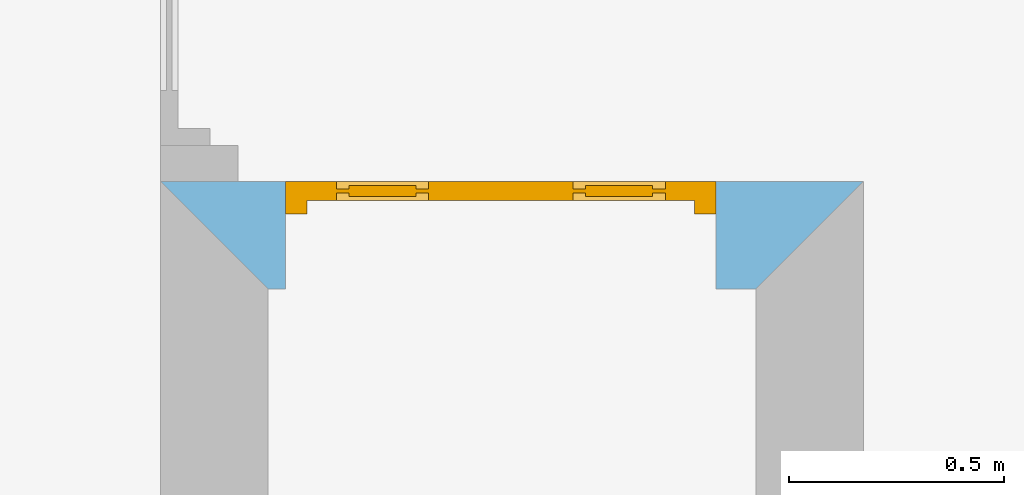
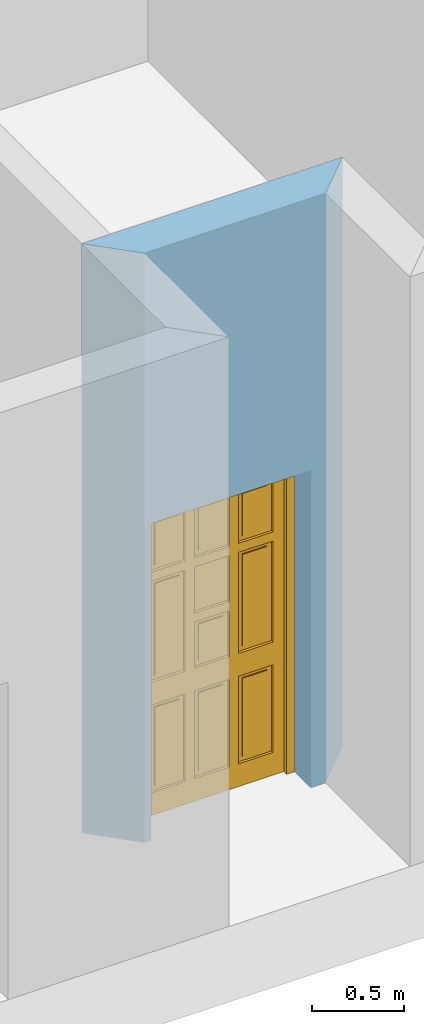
# One storey, part 4 of 5: 1 door, 1 opening, plus 1 element that does not belong to this part.
"""IFC2X3 building model written with IfcOpenShell, lengths in metres."""

from ifc_helpers import new_model, entity, si_unit, converted_unit, direction, frame, frame_2d, origin_with_axes, place, context, project, spatial, polyline, rectangle, outline, extrude, faceted_brep, material, layer, layer_set, layer_usage, type_object, element, fill, save


model = new_model("IFC2X3")

# Units and contexts
context_of_model = context(None, 3, precision=1e-05, world=origin_with_axes(), true_north=direction((6.123234e-17, 1.0)))
plan_context = context("Plan", 3, precision=1e-05, world=origin_with_axes(), true_north=direction((6.123234e-17, 1.0)))
model_context = context("Model", 3, precision=1e-05, world=origin_with_axes(), true_north=direction((6.123234e-17, 1.0)))
ifc_project = project(units=[si_unit("LENGTHUNIT", "METRE"), si_unit("AREAUNIT", "SQUARE_METRE"), si_unit("VOLUMEUNIT", "CUBIC_METRE"), converted_unit("PLANEANGLEUNIT", "DEGREE", entity("IfcPlaneAngleMeasure", 0.017453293), si_unit("PLANEANGLEUNIT", "RADIAN"), dimensions=[0, 0, 0, 0, 0, 0, 0]), si_unit("SOLIDANGLEUNIT", "STERADIAN"), si_unit("MASSUNIT", "GRAM"), si_unit("TIMEUNIT", "SECOND"), si_unit("THERMODYNAMICTEMPERATUREUNIT", "DEGREE_CELSIUS"), si_unit("LUMINOUSINTENSITYUNIT", "LUMEN")], contexts=[context_of_model, plan_context, model_context])

# Site, building, storey
site_placement = place(None, origin_with_axes())
site = spatial("IfcSite", under=ifc_project, at=site_placement, Name="Por defecto Sitio", CompositionType="ELEMENT")
building_placement = place(site_placement, origin_with_axes())
building = spatial("IfcBuilding", under=site, at=building_placement, Name="Por defecto Edificio", CompositionType="ELEMENT")
storey_placement = place(building_placement, origin_with_axes())
storey = spatial("IfcBuildingStorey", under=building, at=storey_placement, Name="Planta Baja", CompositionType="ELEMENT", Elevation=0.0)

# Wall, opening, door
ifc_material = material(Name="Ladrillo común")
ifc_layer = layer(ifc_material, 0.25, ventilated="UNKNOWN")
ifc_layer_set = layer_set([ifc_layer], Name="Ladrillo común")
ifc_layer_usage = layer_usage(ifc_layer_set, "AXIS2", "POSITIVE", 0.0)
wall_type = type_object("IfcWallType", Name="Ladrillo común", PredefinedType="NOTDEFINED")
wall_placement = place(storey_placement, frame((5.3619878, 0.91290992, 0.0), z_axis=(0.0, 0.0, 1.0), x_axis=(1.0, 0.0, 0.0)))
wall = element("IfcWallStandardCase", 1, at=wall_placement, inside=storey, type_object=wall_type, material=ifc_layer_usage, Name="Muro-006", context=context_of_model, shape_type="SweptSolid", body=[
    extrude(outline(polyline([(0.0, 0.0), (1.1322176, 0.0), (1.3822176, 0.25), (-0.25, 0.25), (0.0, 0.0)])), origin_with_axes(), (0.0, 0.0, 1.0), 3.9),
])
opening_placement = place(wall_placement, frame((0.54, 0.0, 0.0), z_axis=(0.0, 0.0, 1.0), x_axis=(1.0, 0.0, 0.0)))
opening = element("IfcOpeningElement", 2, at=opening_placement, cuts=wall, ObjectType="Opening", context=model_context, shape_type="SweptSolid", body=[
    extrude(rectangle(XDim=1.0, YDim=2.1, at=frame_2d((0.0, 1.05), x_axis=(-1.0, 0.0))), frame((0.0, 0.0, 0.0), z_axis=(0.0, 1.0, 0.0), x_axis=(-1.0, 0.0, 0.0)), (0.0, 0.0, 1.0), 0.25),
])
door_style = type_object("IfcDoorStyle", Name="P1 Entrada 12", ConstructionType="NOTDEFINED", OperationType="SINGLE_SWING_LEFT", ParameterTakesPrecedence=False, Sizeable=False)
door_placement = place(opening_placement, frame((-0.5, 0.175, 0.0), z_axis=(0.0, 0.0, 1.0), x_axis=(1.0, 0.0, 0.0)))
door = element("IfcDoor", 3, at=door_placement, inside=storey, type_object=door_style, Name="P03", OverallHeight=2.1, OverallWidth=1.0, context=model_context, shape_type="Brep", body=[
    faceted_brep([(0.95, 0.031, -1.2613862e-17), (0.95, 0.0, -1.0715659e-17), (0.95, 0.0, 2.05), (0.95, 0.031, 2.05), (0.962, 0.031, -1.2613862e-17), (0.962, 0.075, -1.5308085e-17), (1.0, 0.075, -1.5308085e-17), (1.0, 0.0, -1.0715659e-17), (1.0, 0.0, 2.05), (0.962, 0.031, 2.05), (1.0, 0.075, 2.05), (0.962, 0.075, 2.05)], [[[0, 1, 2, 3]], [[4, 5, 6, 7, 1, 0]], [[7, 8, 2, 1]], [[9, 3, 2, 8, 10, 11]], [[9, 4, 0, 3]], [[11, 5, 4, 9]], [[11, 10, 6, 5]], [[8, 7, 6, 10]]]),
    faceted_brep([(0.038, 0.031, 2.05), (0.038, 0.075, 2.05), (0.0, 0.075, 2.05), (0.0, 0.0, 2.05), (0.05, 0.0, 2.05), (0.05, 0.031, 2.05), (0.038, 0.031, -1.2613862e-17), (0.038, 0.075, -1.5308085e-17), (0.0, 0.075, -1.5308085e-17), (0.0, 0.0, 0.0), (0.05, 0.0, -1.0715659e-17), (0.05, 0.031, -1.2613862e-17)], [[[0, 1, 2, 3, 4, 5]], [[0, 6, 7, 1]], [[7, 8, 2, 1]], [[9, 3, 2, 8]], [[10, 4, 3, 9]], [[5, 4, 10, 11]], [[5, 11, 6, 0]], [[6, 11, 10, 9, 8, 7]]]),
    faceted_brep([(0.962, 0.075, 2.062), (0.038, 0.075, 2.062), (0.038, 0.075, 2.05), (0.0, 0.075, 2.05), (0.0, 0.075, 2.1), (1.0, 0.075, 2.1), (1.0, 0.075, 2.05), (0.962, 0.075, 2.05), (0.962, 0.031, 2.062), (0.038, 0.031, 2.062), (0.038, 0.031, 2.05), (0.05, 0.031, 2.05), (0.05, 0.0, 2.05), (0.0, 0.0, 2.05), (0.0, 0.0, 2.1), (1.0, 0.0, 2.1), (1.0, 0.0, 2.05), (0.962, 0.031, 2.05), (0.95, 0.0, 2.05), (0.95, 0.031, 2.05)], [[[0, 1, 2, 3, 4, 5, 6, 7]], [[0, 8, 9, 1]], [[1, 9, 10, 2]], [[10, 11, 12, 13, 3, 2]], [[13, 14, 4, 3]], [[14, 15, 5, 4]], [[15, 16, 6, 5]], [[17, 7, 6, 16, 18, 19]], [[7, 17, 8, 0]], [[10, 9, 8, 17, 19, 11]], [[19, 18, 12, 11]], [[14, 13, 12, 18, 16, 15]]]),
    faceted_brep([(0.038, 0.075, 0.15), (0.118, 0.075, 0.15), (0.118, 0.031, 0.15), (0.038, 0.031, 0.15), (0.038, 0.075, 1.952), (0.118, 0.075, 1.952), (0.118, 0.075, 1.6085333), (0.118, 0.075, 1.5485333), (0.118, 0.075, 0.88), (0.118, 0.075, 0.73), (0.118, 0.031, 0.73), (0.118, 0.031, 0.88), (0.118, 0.031, 1.5485333), (0.118, 0.031, 1.6085333), (0.118, 0.031, 1.952), (0.038, 0.031, 1.952)], [[[0, 1, 2, 3]], [[0, 4, 5, 6, 7, 8, 9, 1]], [[1, 9, 10, 2]], [[3, 2, 10, 11, 12, 13, 14, 15]], [[4, 0, 3, 15]], [[5, 4, 15, 14]], [[6, 5, 14, 13]], [[7, 6, 13, 12]], [[8, 7, 12, 11]], [[9, 8, 11, 10]]]),
    faceted_brep([(0.962, 0.075, 0.15), (0.962, 0.075, 1.952), (0.962, 0.031, 1.952), (0.962, 0.031, 0.15), (0.882, 0.075, 0.15), (0.882, 0.075, 0.73), (0.882, 0.075, 0.88), (0.882, 0.075, 1.5485333), (0.882, 0.075, 1.6085333), (0.882, 0.075, 1.952), (0.882, 0.031, 1.952), (0.882, 0.031, 1.6085333), (0.882, 0.031, 1.5485333), (0.882, 0.031, 0.88), (0.882, 0.031, 0.73), (0.882, 0.031, 0.15)], [[[0, 1, 2, 3]], [[0, 4, 5, 6, 7, 8, 9, 1]], [[1, 9, 10, 2]], [[3, 2, 10, 11, 12, 13, 14, 15]], [[4, 0, 3, 15]], [[5, 4, 15, 14]], [[6, 5, 14, 13]], [[7, 6, 13, 12]], [[8, 7, 12, 11]], [[9, 8, 11, 10]]]),
    faceted_brep([(0.038, 0.075, -1.5308085e-17), (0.962, 0.075, -1.5308085e-17), (0.962, 0.031, -1.2613862e-17), (0.038, 0.031, -1.2613862e-17), (0.038, 0.075, 0.15), (0.118, 0.075, 0.15), (0.33266667, 0.075, 0.15), (0.39266667, 0.075, 0.15), (0.60733333, 0.075, 0.15), (0.66733333, 0.075, 0.15), (0.882, 0.075, 0.15), (0.962, 0.075, 0.15), (0.962, 0.031, 0.15), (0.882, 0.031, 0.15), (0.66733333, 0.031, 0.15), (0.60733333, 0.031, 0.15), (0.39266667, 0.031, 0.15), (0.33266667, 0.031, 0.15), (0.118, 0.031, 0.15), (0.038, 0.031, 0.15)], [[[0, 1, 2, 3]], [[0, 4, 5, 6, 7, 8, 9, 10, 11, 1]], [[1, 11, 12, 2]], [[3, 2, 12, 13, 14, 15, 16, 17, 18, 19]], [[4, 0, 3, 19]], [[5, 4, 19, 18]], [[6, 5, 18, 17]], [[7, 6, 17, 16]], [[8, 7, 16, 15]], [[9, 8, 15, 14]], [[10, 9, 14, 13]], [[11, 10, 13, 12]]]),
    faceted_brep([(0.038, 0.075, 2.062), (0.038, 0.075, 1.952), (0.038, 0.031, 1.952), (0.038, 0.031, 2.062), (0.962, 0.075, 2.062), (0.962, 0.075, 1.952), (0.882, 0.075, 1.952), (0.66733333, 0.075, 1.952), (0.60733333, 0.075, 1.952), (0.39266667, 0.075, 1.952), (0.33266667, 0.075, 1.952), (0.118, 0.075, 1.952), (0.118, 0.031, 1.952), (0.33266667, 0.031, 1.952), (0.39266667, 0.031, 1.952), (0.60733333, 0.031, 1.952), (0.66733333, 0.031, 1.952), (0.882, 0.031, 1.952), (0.962, 0.031, 1.952), (0.962, 0.031, 2.062)], [[[0, 1, 2, 3]], [[0, 4, 5, 6, 7, 8, 9, 10, 11, 1]], [[1, 11, 12, 2]], [[3, 2, 12, 13, 14, 15, 16, 17, 18, 19]], [[4, 0, 3, 19]], [[5, 4, 19, 18]], [[6, 5, 18, 17]], [[7, 6, 17, 16]], [[8, 7, 16, 15]], [[9, 8, 15, 14]], [[10, 9, 14, 13]], [[11, 10, 13, 12]]]),
    faceted_brep([(0.39266667, 0.075, 0.15), (0.39266667, 0.075, 0.73), (0.39266667, 0.031, 0.73), (0.39266667, 0.031, 0.15), (0.33266667, 0.075, 0.15), (0.33266667, 0.075, 0.73), (0.33266667, 0.031, 0.73), (0.33266667, 0.031, 0.15)], [[[0, 1, 2, 3]], [[0, 4, 5, 1]], [[1, 5, 6, 2]], [[3, 2, 6, 7]], [[4, 0, 3, 7]], [[5, 4, 7, 6]]]),
    faceted_brep([(0.39266667, 0.075, 0.88), (0.39266667, 0.075, 1.1842667), (0.39266667, 0.031, 1.1842667), (0.39266667, 0.031, 0.88), (0.33266667, 0.075, 0.88), (0.33266667, 0.075, 1.5485333), (0.39266667, 0.075, 1.5485333), (0.39266667, 0.075, 1.2442667), (0.39266667, 0.031, 1.2442667), (0.39266667, 0.031, 1.5485333), (0.33266667, 0.031, 1.5485333), (0.33266667, 0.031, 0.88)], [[[0, 1, 2, 3]], [[0, 4, 5, 6, 7, 1]], [[1, 7, 8, 2]], [[3, 2, 8, 9, 10, 11]], [[4, 0, 3, 11]], [[5, 4, 11, 10]], [[6, 5, 10, 9]], [[7, 6, 9, 8]]]),
    faceted_brep([(0.39266667, 0.075, 1.6085333), (0.39266667, 0.075, 1.952), (0.39266667, 0.031, 1.952), (0.39266667, 0.031, 1.6085333), (0.33266667, 0.075, 1.6085333), (0.33266667, 0.075, 1.952), (0.33266667, 0.031, 1.952), (0.33266667, 0.031, 1.6085333)], [[[0, 1, 2, 3]], [[0, 4, 5, 1]], [[1, 5, 6, 2]], [[3, 2, 6, 7]], [[4, 0, 3, 7]], [[5, 4, 7, 6]]]),
    faceted_brep([(0.66733333, 0.075, 0.15), (0.66733333, 0.075, 0.73), (0.66733333, 0.031, 0.73), (0.66733333, 0.031, 0.15), (0.60733333, 0.075, 0.15), (0.60733333, 0.075, 0.73), (0.60733333, 0.031, 0.73), (0.60733333, 0.031, 0.15)], [[[0, 1, 2, 3]], [[0, 4, 5, 1]], [[1, 5, 6, 2]], [[3, 2, 6, 7]], [[4, 0, 3, 7]], [[5, 4, 7, 6]]]),
    faceted_brep([(0.66733333, 0.075, 0.88), (0.66733333, 0.075, 1.5485333), (0.66733333, 0.031, 1.5485333), (0.66733333, 0.031, 0.88), (0.60733333, 0.075, 0.88), (0.60733333, 0.075, 1.1842667), (0.60733333, 0.075, 1.2442667), (0.60733333, 0.075, 1.5485333), (0.60733333, 0.031, 1.5485333), (0.60733333, 0.031, 1.2442667), (0.60733333, 0.031, 1.1842667), (0.60733333, 0.031, 0.88)], [[[0, 1, 2, 3]], [[0, 4, 5, 6, 7, 1]], [[1, 7, 8, 2]], [[3, 2, 8, 9, 10, 11]], [[4, 0, 3, 11]], [[5, 4, 11, 10]], [[6, 5, 10, 9]], [[7, 6, 9, 8]]]),
    faceted_brep([(0.66733333, 0.075, 1.6085333), (0.66733333, 0.075, 1.952), (0.66733333, 0.031, 1.952), (0.66733333, 0.031, 1.6085333), (0.60733333, 0.075, 1.6085333), (0.60733333, 0.075, 1.952), (0.60733333, 0.031, 1.952), (0.60733333, 0.031, 1.6085333)], [[[0, 1, 2, 3]], [[0, 4, 5, 1]], [[1, 5, 6, 2]], [[3, 2, 6, 7]], [[4, 0, 3, 7]], [[5, 4, 7, 6]]]),
    faceted_brep([(0.118, 0.075, 1.5485333), (0.33266667, 0.075, 1.5485333), (0.33266667, 0.031, 1.5485333), (0.118, 0.031, 1.5485333), (0.118, 0.075, 1.6085333), (0.33266667, 0.075, 1.6085333), (0.39266667, 0.075, 1.6085333), (0.60733333, 0.075, 1.6085333), (0.66733333, 0.075, 1.6085333), (0.882, 0.075, 1.6085333), (0.882, 0.075, 1.5485333), (0.66733333, 0.075, 1.5485333), (0.60733333, 0.075, 1.5485333), (0.39266667, 0.075, 1.5485333), (0.39266667, 0.031, 1.5485333), (0.60733333, 0.031, 1.5485333), (0.66733333, 0.031, 1.5485333), (0.882, 0.031, 1.5485333), (0.882, 0.031, 1.6085333), (0.66733333, 0.031, 1.6085333), (0.60733333, 0.031, 1.6085333), (0.39266667, 0.031, 1.6085333), (0.33266667, 0.031, 1.6085333), (0.118, 0.031, 1.6085333)], [[[0, 1, 2, 3]], [[0, 4, 5, 6, 7, 8, 9, 10, 11, 12, 13, 1]], [[1, 13, 14, 2]], [[3, 2, 14, 15, 16, 17, 18, 19, 20, 21, 22, 23]], [[4, 0, 3, 23]], [[5, 4, 23, 22]], [[6, 5, 22, 21]], [[7, 6, 21, 20]], [[8, 7, 20, 19]], [[9, 8, 19, 18]], [[10, 9, 18, 17]], [[11, 10, 17, 16]], [[12, 11, 16, 15]], [[13, 12, 15, 14]]]),
    faceted_brep([(0.60733333, 0.075, 1.1842667), (0.60733333, 0.075, 1.2442667), (0.60733333, 0.031, 1.2442667), (0.60733333, 0.031, 1.1842667), (0.39266667, 0.075, 1.1842667), (0.39266667, 0.075, 1.2442667), (0.39266667, 0.031, 1.2442667), (0.39266667, 0.031, 1.1842667)], [[[0, 1, 2, 3]], [[0, 4, 5, 1]], [[1, 5, 6, 2]], [[3, 2, 6, 7]], [[4, 0, 3, 7]], [[5, 4, 7, 6]]]),
    faceted_brep([(0.118, 0.075, 0.73), (0.33266667, 0.075, 0.73), (0.33266667, 0.031, 0.73), (0.118, 0.031, 0.73), (0.118, 0.075, 0.88), (0.33266667, 0.075, 0.88), (0.39266667, 0.075, 0.88), (0.60733333, 0.075, 0.88), (0.66733333, 0.075, 0.88), (0.882, 0.075, 0.88), (0.882, 0.075, 0.73), (0.66733333, 0.075, 0.73), (0.60733333, 0.075, 0.73), (0.39266667, 0.075, 0.73), (0.39266667, 0.031, 0.73), (0.60733333, 0.031, 0.73), (0.66733333, 0.031, 0.73), (0.882, 0.031, 0.73), (0.882, 0.031, 0.88), (0.66733333, 0.031, 0.88), (0.60733333, 0.031, 0.88), (0.39266667, 0.031, 0.88), (0.33266667, 0.031, 0.88), (0.118, 0.031, 0.88)], [[[0, 1, 2, 3]], [[0, 4, 5, 6, 7, 8, 9, 10, 11, 12, 13, 1]], [[1, 13, 14, 2]], [[3, 2, 14, 15, 16, 17, 18, 19, 20, 21, 22, 23]], [[4, 0, 3, 23]], [[5, 4, 23, 22]], [[6, 5, 22, 21]], [[7, 6, 21, 20]], [[8, 7, 20, 19]], [[9, 8, 19, 18]], [[10, 9, 18, 17]], [[11, 10, 17, 16]], [[12, 11, 16, 15]], [[13, 12, 15, 14]]]),
    faceted_brep([(0.118, 0.058, 0.15), (0.33266667, 0.058, 0.15), (0.33266667, 0.048, 0.15), (0.118, 0.048, 0.15), (0.118, 0.058, 0.73), (0.33266667, 0.058, 0.73), (0.33266667, 0.048, 0.73), (0.118, 0.048, 0.73)], [[[0, 1, 2, 3]], [[0, 4, 5, 1]], [[1, 5, 6, 2]], [[3, 2, 6, 7]], [[4, 0, 3, 7]], [[5, 4, 7, 6]]]),
    faceted_brep([(0.39266667, 0.058, 0.15), (0.60733333, 0.058, 0.15), (0.60733333, 0.048, 0.15), (0.39266667, 0.048, 0.15), (0.39266667, 0.058, 0.73), (0.60733333, 0.058, 0.73), (0.60733333, 0.048, 0.73), (0.39266667, 0.048, 0.73)], [[[0, 1, 2, 3]], [[0, 4, 5, 1]], [[1, 5, 6, 2]], [[3, 2, 6, 7]], [[4, 0, 3, 7]], [[5, 4, 7, 6]]]),
    faceted_brep([(0.66733333, 0.058, 0.15), (0.882, 0.058, 0.15), (0.882, 0.048, 0.15), (0.66733333, 0.048, 0.15), (0.66733333, 0.058, 0.73), (0.882, 0.058, 0.73), (0.882, 0.048, 0.73), (0.66733333, 0.048, 0.73)], [[[0, 1, 2, 3]], [[0, 4, 5, 1]], [[1, 5, 6, 2]], [[3, 2, 6, 7]], [[4, 0, 3, 7]], [[5, 4, 7, 6]]]),
    faceted_brep([(0.118, 0.058, 1.6085333), (0.33266667, 0.058, 1.6085333), (0.33266667, 0.048, 1.6085333), (0.118, 0.048, 1.6085333), (0.118, 0.058, 1.952), (0.33266667, 0.058, 1.952), (0.33266667, 0.048, 1.952), (0.118, 0.048, 1.952)], [[[0, 1, 2, 3]], [[0, 4, 5, 1]], [[1, 5, 6, 2]], [[3, 2, 6, 7]], [[4, 0, 3, 7]], [[5, 4, 7, 6]]]),
    faceted_brep([(0.39266667, 0.058, 1.6085333), (0.60733333, 0.058, 1.6085333), (0.60733333, 0.048, 1.6085333), (0.39266667, 0.048, 1.6085333), (0.39266667, 0.058, 1.952), (0.60733333, 0.058, 1.952), (0.60733333, 0.048, 1.952), (0.39266667, 0.048, 1.952)], [[[0, 1, 2, 3]], [[0, 4, 5, 1]], [[1, 5, 6, 2]], [[3, 2, 6, 7]], [[4, 0, 3, 7]], [[5, 4, 7, 6]]]),
    faceted_brep([(0.66733333, 0.058, 1.6085333), (0.882, 0.058, 1.6085333), (0.882, 0.048, 1.6085333), (0.66733333, 0.048, 1.6085333), (0.66733333, 0.058, 1.952), (0.882, 0.058, 1.952), (0.882, 0.048, 1.952), (0.66733333, 0.048, 1.952)], [[[0, 1, 2, 3]], [[0, 4, 5, 1]], [[1, 5, 6, 2]], [[3, 2, 6, 7]], [[4, 0, 3, 7]], [[5, 4, 7, 6]]]),
    faceted_brep([(0.118, 0.058, 0.88), (0.33266667, 0.058, 0.88), (0.33266667, 0.048, 0.88), (0.118, 0.048, 0.88), (0.118, 0.058, 1.5485333), (0.33266667, 0.058, 1.5485333), (0.33266667, 0.048, 1.5485333), (0.118, 0.048, 1.5485333)], [[[0, 1, 2, 3]], [[0, 4, 5, 1]], [[1, 5, 6, 2]], [[3, 2, 6, 7]], [[4, 0, 3, 7]], [[5, 4, 7, 6]]]),
    faceted_brep([(0.39266667, 0.058, 0.88), (0.60733333, 0.058, 0.88), (0.60733333, 0.048, 0.88), (0.39266667, 0.048, 0.88), (0.39266667, 0.058, 1.1842667), (0.60733333, 0.058, 1.1842667), (0.60733333, 0.048, 1.1842667), (0.39266667, 0.048, 1.1842667)], [[[0, 1, 2, 3]], [[0, 4, 5, 1]], [[1, 5, 6, 2]], [[3, 2, 6, 7]], [[4, 0, 3, 7]], [[5, 4, 7, 6]]]),
    faceted_brep([(0.66733333, 0.058, 0.88), (0.882, 0.058, 0.88), (0.882, 0.048, 0.88), (0.66733333, 0.048, 0.88), (0.66733333, 0.058, 1.5485333), (0.882, 0.058, 1.5485333), (0.882, 0.048, 1.5485333), (0.66733333, 0.048, 1.5485333)], [[[0, 1, 2, 3]], [[0, 4, 5, 1]], [[1, 5, 6, 2]], [[3, 2, 6, 7]], [[4, 0, 3, 7]], [[5, 4, 7, 6]]]),
    faceted_brep([(0.39266667, 0.058, 1.2442667), (0.60733333, 0.058, 1.2442667), (0.60733333, 0.048, 1.2442667), (0.39266667, 0.048, 1.2442667), (0.39266667, 0.058, 1.5485333), (0.60733333, 0.058, 1.5485333), (0.60733333, 0.048, 1.5485333), (0.39266667, 0.048, 1.5485333)], [[[0, 1, 2, 3]], [[0, 4, 5, 1]], [[1, 5, 6, 2]], [[3, 2, 6, 7]], [[4, 0, 3, 7]], [[5, 4, 7, 6]]]),
    faceted_brep([(0.148, 0.066, 0.18), (0.30266667, 0.066, 0.18), (0.30266667, 0.058, 0.18), (0.148, 0.058, 0.18), (0.148, 0.066, 0.7), (0.30266667, 0.066, 0.7), (0.30266667, 0.058, 0.7), (0.148, 0.058, 0.7)], [[[0, 1, 2, 3]], [[0, 4, 5, 1]], [[1, 5, 6, 2]], [[3, 2, 6, 7]], [[4, 0, 3, 7]], [[5, 4, 7, 6]]]),
    faceted_brep([(0.42266667, 0.066, 0.18), (0.57733333, 0.066, 0.18), (0.57733333, 0.058, 0.18), (0.42266667, 0.058, 0.18), (0.42266667, 0.066, 0.7), (0.57733333, 0.066, 0.7), (0.57733333, 0.058, 0.7), (0.42266667, 0.058, 0.7)], [[[0, 1, 2, 3]], [[0, 4, 5, 1]], [[1, 5, 6, 2]], [[3, 2, 6, 7]], [[4, 0, 3, 7]], [[5, 4, 7, 6]]]),
    faceted_brep([(0.69733333, 0.066, 0.18), (0.852, 0.066, 0.18), (0.852, 0.058, 0.18), (0.69733333, 0.058, 0.18), (0.69733333, 0.066, 0.7), (0.852, 0.066, 0.7), (0.852, 0.058, 0.7), (0.69733333, 0.058, 0.7)], [[[0, 1, 2, 3]], [[0, 4, 5, 1]], [[1, 5, 6, 2]], [[3, 2, 6, 7]], [[4, 0, 3, 7]], [[5, 4, 7, 6]]]),
    faceted_brep([(0.148, 0.066, 1.6385333), (0.30266667, 0.066, 1.6385333), (0.30266667, 0.058, 1.6385333), (0.148, 0.058, 1.6385333), (0.148, 0.066, 1.922), (0.30266667, 0.066, 1.922), (0.30266667, 0.058, 1.922), (0.148, 0.058, 1.922)], [[[0, 1, 2, 3]], [[0, 4, 5, 1]], [[1, 5, 6, 2]], [[3, 2, 6, 7]], [[4, 0, 3, 7]], [[5, 4, 7, 6]]]),
    faceted_brep([(0.42266667, 0.066, 1.6385333), (0.57733333, 0.066, 1.6385333), (0.57733333, 0.058, 1.6385333), (0.42266667, 0.058, 1.6385333), (0.42266667, 0.066, 1.922), (0.57733333, 0.066, 1.922), (0.57733333, 0.058, 1.922), (0.42266667, 0.058, 1.922)], [[[0, 1, 2, 3]], [[0, 4, 5, 1]], [[1, 5, 6, 2]], [[3, 2, 6, 7]], [[4, 0, 3, 7]], [[5, 4, 7, 6]]]),
    faceted_brep([(0.69733333, 0.066, 1.6385333), (0.852, 0.066, 1.6385333), (0.852, 0.058, 1.6385333), (0.69733333, 0.058, 1.6385333), (0.69733333, 0.066, 1.922), (0.852, 0.066, 1.922), (0.852, 0.058, 1.922), (0.69733333, 0.058, 1.922)], [[[0, 1, 2, 3]], [[0, 4, 5, 1]], [[1, 5, 6, 2]], [[3, 2, 6, 7]], [[4, 0, 3, 7]], [[5, 4, 7, 6]]]),
    faceted_brep([(0.148, 0.066, 0.91), (0.30266667, 0.066, 0.91), (0.30266667, 0.058, 0.91), (0.148, 0.058, 0.91), (0.148, 0.066, 1.5185333), (0.30266667, 0.066, 1.5185333), (0.30266667, 0.058, 1.5185333), (0.148, 0.058, 1.5185333)], [[[0, 1, 2, 3]], [[0, 4, 5, 1]], [[1, 5, 6, 2]], [[3, 2, 6, 7]], [[4, 0, 3, 7]], [[5, 4, 7, 6]]]),
    faceted_brep([(0.42266667, 0.066, 0.91), (0.57733333, 0.066, 0.91), (0.57733333, 0.058, 0.91), (0.42266667, 0.058, 0.91), (0.42266667, 0.066, 1.1542667), (0.57733333, 0.066, 1.1542667), (0.57733333, 0.058, 1.1542667), (0.42266667, 0.058, 1.1542667)], [[[0, 1, 2, 3]], [[0, 4, 5, 1]], [[1, 5, 6, 2]], [[3, 2, 6, 7]], [[4, 0, 3, 7]], [[5, 4, 7, 6]]]),
    faceted_brep([(0.69733333, 0.066, 0.91), (0.852, 0.066, 0.91), (0.852, 0.058, 0.91), (0.69733333, 0.058, 0.91), (0.69733333, 0.066, 1.5185333), (0.852, 0.066, 1.5185333), (0.852, 0.058, 1.5185333), (0.69733333, 0.058, 1.5185333)], [[[0, 1, 2, 3]], [[0, 4, 5, 1]], [[1, 5, 6, 2]], [[3, 2, 6, 7]], [[4, 0, 3, 7]], [[5, 4, 7, 6]]]),
    faceted_brep([(0.148, 0.048, 0.18), (0.30266667, 0.048, 0.18), (0.30266667, 0.04, 0.18), (0.148, 0.04, 0.18), (0.148, 0.048, 0.7), (0.30266667, 0.048, 0.7), (0.30266667, 0.04, 0.7), (0.148, 0.04, 0.7)], [[[0, 1, 2, 3]], [[0, 4, 5, 1]], [[1, 5, 6, 2]], [[3, 2, 6, 7]], [[4, 0, 3, 7]], [[5, 4, 7, 6]]]),
    faceted_brep([(0.42266667, 0.048, 0.18), (0.57733333, 0.048, 0.18), (0.57733333, 0.04, 0.18), (0.42266667, 0.04, 0.18), (0.42266667, 0.048, 0.7), (0.57733333, 0.048, 0.7), (0.57733333, 0.04, 0.7), (0.42266667, 0.04, 0.7)], [[[0, 1, 2, 3]], [[0, 4, 5, 1]], [[1, 5, 6, 2]], [[3, 2, 6, 7]], [[4, 0, 3, 7]], [[5, 4, 7, 6]]]),
    faceted_brep([(0.69733333, 0.048, 0.18), (0.852, 0.048, 0.18), (0.852, 0.04, 0.18), (0.69733333, 0.04, 0.18), (0.69733333, 0.048, 0.7), (0.852, 0.048, 0.7), (0.852, 0.04, 0.7), (0.69733333, 0.04, 0.7)], [[[0, 1, 2, 3]], [[0, 4, 5, 1]], [[1, 5, 6, 2]], [[3, 2, 6, 7]], [[4, 0, 3, 7]], [[5, 4, 7, 6]]]),
    faceted_brep([(0.148, 0.048, 1.6385333), (0.30266667, 0.048, 1.6385333), (0.30266667, 0.04, 1.6385333), (0.148, 0.04, 1.6385333), (0.148, 0.048, 1.922), (0.30266667, 0.048, 1.922), (0.30266667, 0.04, 1.922), (0.148, 0.04, 1.922)], [[[0, 1, 2, 3]], [[0, 4, 5, 1]], [[1, 5, 6, 2]], [[3, 2, 6, 7]], [[4, 0, 3, 7]], [[5, 4, 7, 6]]]),
    faceted_brep([(0.42266667, 0.048, 1.6385333), (0.57733333, 0.048, 1.6385333), (0.57733333, 0.04, 1.6385333), (0.42266667, 0.04, 1.6385333), (0.42266667, 0.048, 1.922), (0.57733333, 0.048, 1.922), (0.57733333, 0.04, 1.922), (0.42266667, 0.04, 1.922)], [[[0, 1, 2, 3]], [[0, 4, 5, 1]], [[1, 5, 6, 2]], [[3, 2, 6, 7]], [[4, 0, 3, 7]], [[5, 4, 7, 6]]]),
    faceted_brep([(0.69733333, 0.048, 1.6385333), (0.852, 0.048, 1.6385333), (0.852, 0.04, 1.6385333), (0.69733333, 0.04, 1.6385333), (0.69733333, 0.048, 1.922), (0.852, 0.048, 1.922), (0.852, 0.04, 1.922), (0.69733333, 0.04, 1.922)], [[[0, 1, 2, 3]], [[0, 4, 5, 1]], [[1, 5, 6, 2]], [[3, 2, 6, 7]], [[4, 0, 3, 7]], [[5, 4, 7, 6]]]),
    faceted_brep([(0.148, 0.048, 0.91), (0.30266667, 0.048, 0.91), (0.30266667, 0.04, 0.91), (0.148, 0.04, 0.91), (0.148, 0.048, 1.5185333), (0.30266667, 0.048, 1.5185333), (0.30266667, 0.04, 1.5185333), (0.148, 0.04, 1.5185333)], [[[0, 1, 2, 3]], [[0, 4, 5, 1]], [[1, 5, 6, 2]], [[3, 2, 6, 7]], [[4, 0, 3, 7]], [[5, 4, 7, 6]]]),
    faceted_brep([(0.42266667, 0.048, 0.91), (0.57733333, 0.048, 0.91), (0.57733333, 0.04, 0.91), (0.42266667, 0.04, 0.91), (0.42266667, 0.048, 1.1542667), (0.57733333, 0.048, 1.1542667), (0.57733333, 0.04, 1.1542667), (0.42266667, 0.04, 1.1542667)], [[[0, 1, 2, 3]], [[0, 4, 5, 1]], [[1, 5, 6, 2]], [[3, 2, 6, 7]], [[4, 0, 3, 7]], [[5, 4, 7, 6]]]),
    faceted_brep([(0.69733333, 0.048, 0.91), (0.852, 0.048, 0.91), (0.852, 0.04, 0.91), (0.69733333, 0.04, 0.91), (0.69733333, 0.048, 1.5185333), (0.852, 0.048, 1.5185333), (0.852, 0.04, 1.5185333), (0.69733333, 0.04, 1.5185333)], [[[0, 1, 2, 3]], [[0, 4, 5, 1]], [[1, 5, 6, 2]], [[3, 2, 6, 7]], [[4, 0, 3, 7]], [[5, 4, 7, 6]]]),
])
fill(opening, door)

save(model, "model.ifc")
